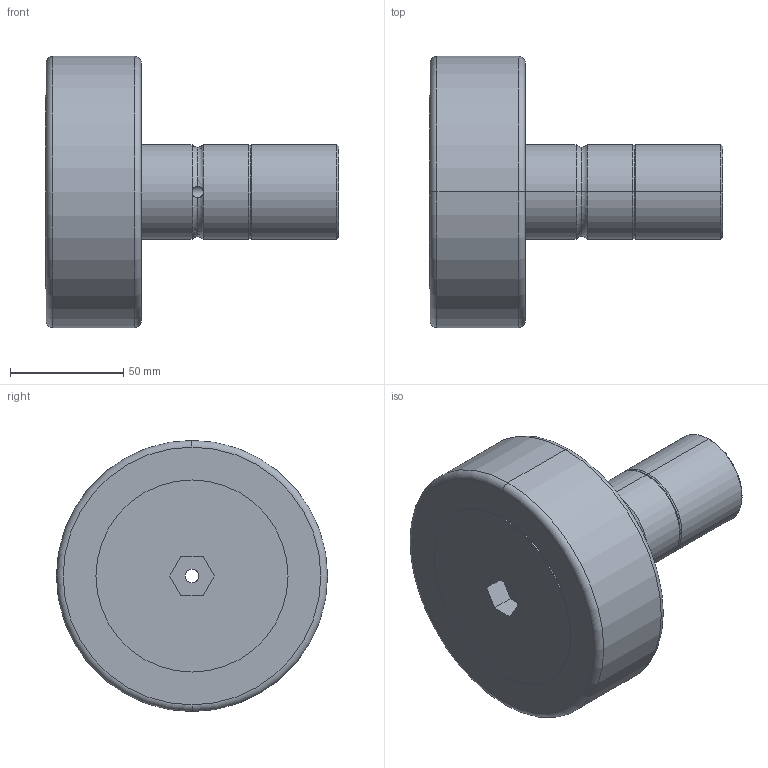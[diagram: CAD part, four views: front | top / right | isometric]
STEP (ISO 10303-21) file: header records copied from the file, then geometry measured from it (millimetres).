
FILE_DESCRIPTION (( 'STEP AP214' ), '1' );
FILE_NAME ('3DNUKR120.STEP', '2013-12-19T08:20:03', ( 'usuario' ), ( 'Hewlett-Packard Company' ), 'SwSTEP 2.0', 'SolidWorks 2017', '' );
FILE_SCHEMA (( 'AUTOMOTIVE_DESIGN' ));
Length unit declared in the file: millimetre
Products named in the file (1): 3DNUKR120
Bounding box: 130 x 120 x 120 mm (x, y, z)
Volume: 588544.2 mm3; surface area: 52598.3 mm2
Topology: 1 solids, 1 shells, 48 faces, 107 edges, 64 vertices
Faces by surface type: plane 18, torus 14, cylinder 14, cone 2
Entity records: 1478 total; most frequent: CARTESIAN_POINT 344, DIRECTION 248, ORIENTED_EDGE 214, EDGE_CURVE 107, AXIS2_PLACEMENT_3D 98, VERTEX_POINT 64, EDGE_LOOP 55, VECTOR 52
